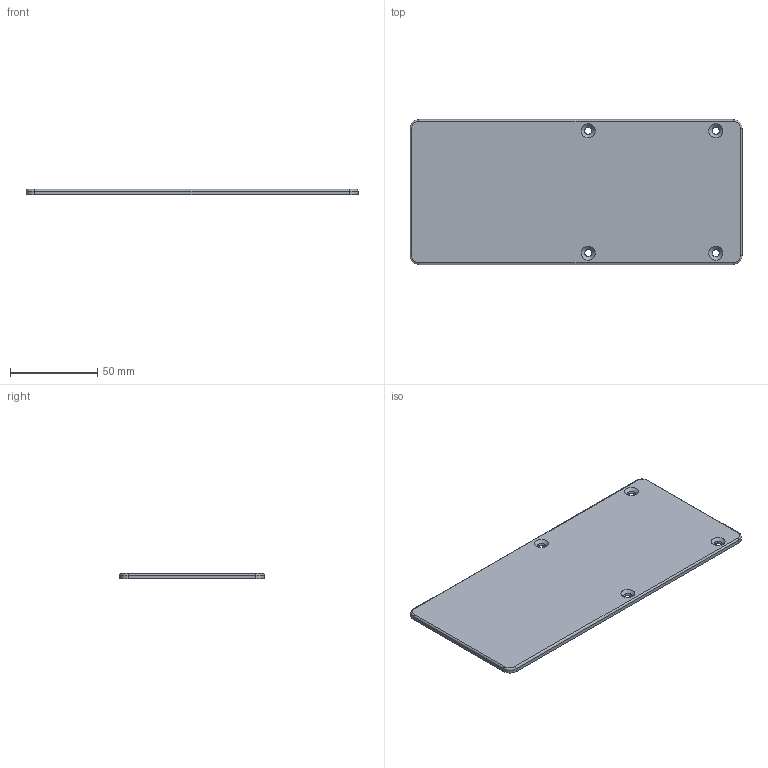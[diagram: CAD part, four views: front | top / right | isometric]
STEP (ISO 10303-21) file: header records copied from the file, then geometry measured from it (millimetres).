
FILE_DESCRIPTION(('HOOPS Exchange Step'),'2;1');
FILE_NAME('/Users/tim/Library/Containers/com.shapr3d.shapr/Data/tmp/export/temp_export','2024-03-22T11:56:28-04:00',('tim'),('Shapr3D Limited'),'HOOPS Exchange 2023.2','Shapr3D','Authorized');
FILE_SCHEMA( ('AUTOMOTIVE_DESIGN { 1 0 10303 214 1 1 1 1 }') );
Length unit declared in the file: millimetre
Products named in the file (1): Final Backboard
Bounding box: 190 x 83 x 3 mm (x, y, z)
Volume: 46841 mm3; surface area: 32888.5 mm2
Topology: 1 solids, 1 shells, 30 faces, 68 edges, 40 vertices
Faces by surface type: cylinder 12, cone 8, plane 6, torus 4
Full cylindrical faces by diameter (mm): 4 x4
Entity records: 880 total; most frequent: DIRECTION 166, CARTESIAN_POINT 139, ORIENTED_EDGE 136, EDGE_CURVE 68, AXIS2_PLACEMENT_3D 67, VERTEX_POINT 40, EDGE_LOOP 38, FACE_BOUND 38
